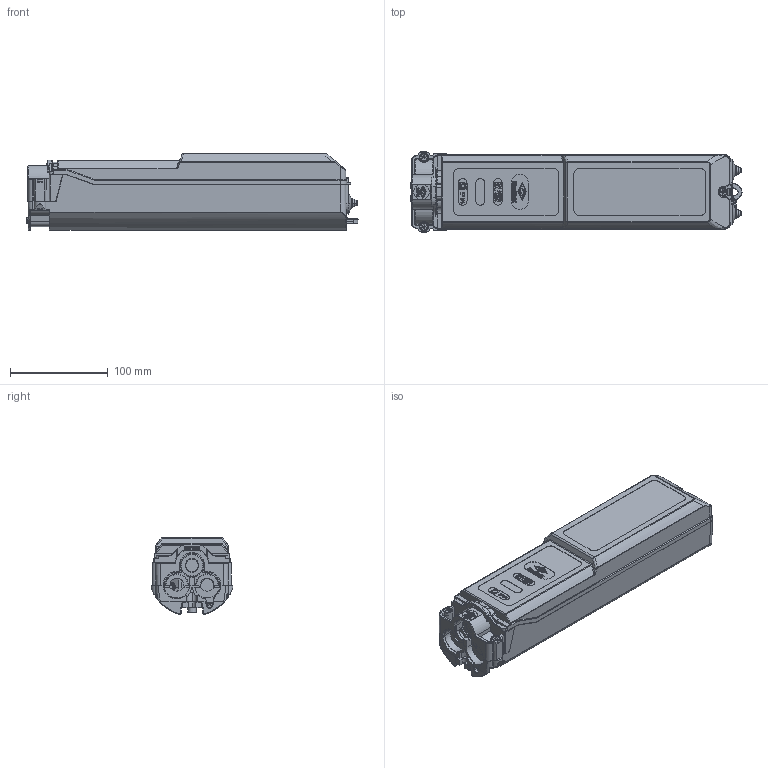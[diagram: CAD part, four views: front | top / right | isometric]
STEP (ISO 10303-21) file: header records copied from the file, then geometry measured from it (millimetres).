
FILE_DESCRIPTION (( 'STEP AP203' ), '1' );
FILE_NAME ('3D - HSW2525 Außenkontur.STEP', '2019-06-28T08:42:53', ( '' ), ( '' ), 'SwSTEP 2.0', 'SolidWorks 2013', '' );
FILE_SCHEMA (( 'CONFIG_CONTROL_DESIGN' ));
Length unit declared in the file: millimetre
Products named in the file (1): 3D - HSW2525 Außenkontur
Bounding box: 339.54 x 83.5 x 78.61 mm (x, y, z)
Surface area: 125988.9 mm2 (no closed solid volume)
Topology: 0 solids, 26 shells, 1171 faces, 4191 edges, 2959 vertices
Faces by surface type: plane 534, cylinder 302, bspline 131, cone 101, torus 93, sphere 10
Entity records: 54375 total; most frequent: CARTESIAN_POINT 20822, ORIENTED_EDGE 6711, DIRECTION 6341, EDGE_CURVE 4181, VERTEX_POINT 2959, VECTOR 2423, LINE 2423, AXIS2_PLACEMENT_3D 1959
